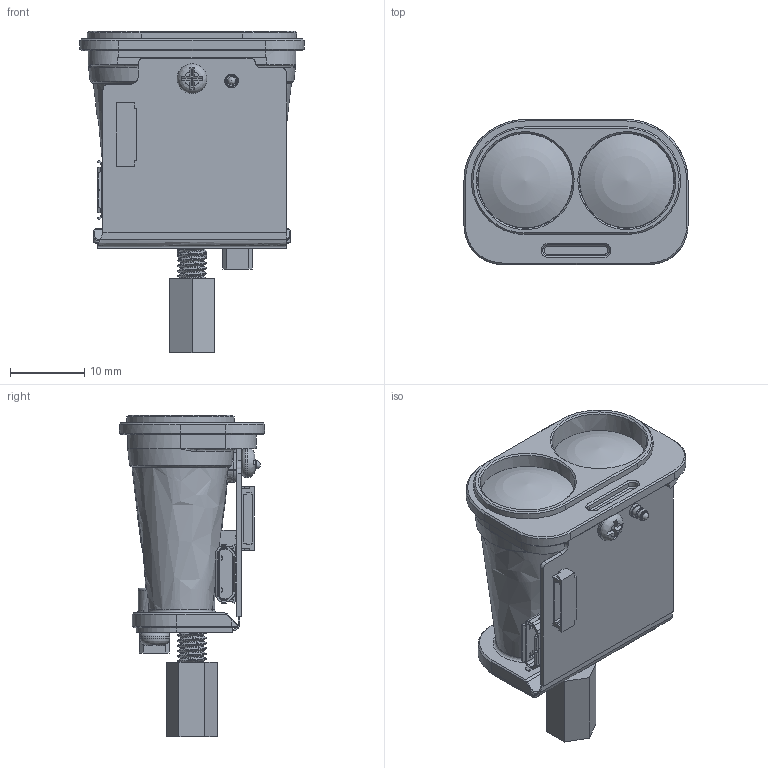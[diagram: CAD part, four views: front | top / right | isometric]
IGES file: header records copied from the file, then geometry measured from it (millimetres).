
Global section: file name: LA 000_095-1 - SF20 assembly - Rev 1; native system: unknown; preprocessor: unknown; author: unknown; organization: unknown; date: 20190731.115717; units: millimetre
Bounding box: 30.2 x 19.55 x 43.29 mm (x, y, z)
Volume: 4695.5 mm3; surface area: 9091.4 mm2
Topology: 14 solids, 14 shells, 1218 faces, 4527 edges, 3604 vertices
Faces by surface type: bspline 1164, revolution 54
